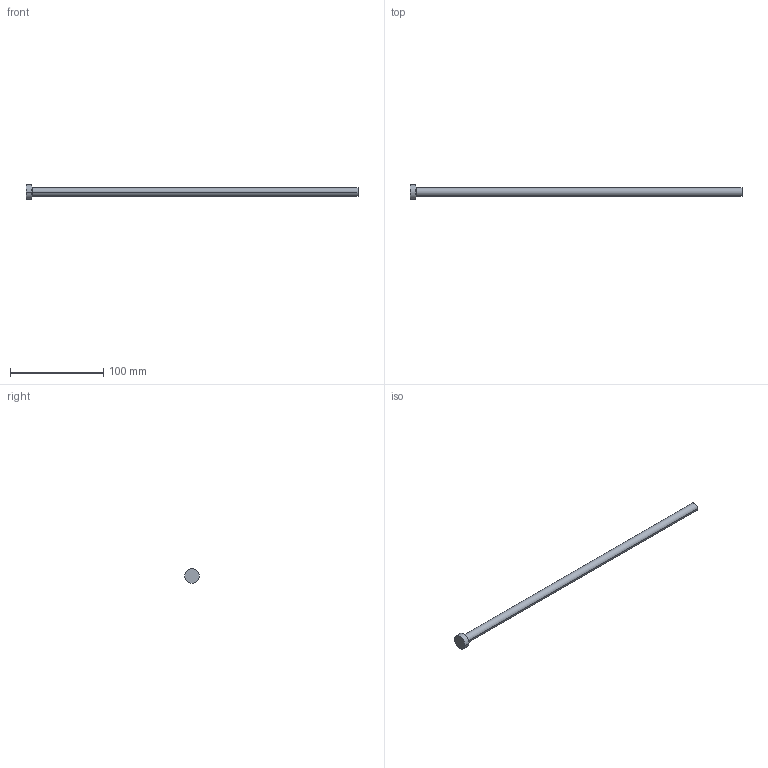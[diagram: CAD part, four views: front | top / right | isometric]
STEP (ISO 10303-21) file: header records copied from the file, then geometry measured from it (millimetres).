
FILE_DESCRIPTION (( 'STEP AP214' ), '1' );
FILE_NAME ('P24-14.STEP', '2020-03-12T09:51:10', ( '' ), ( '' ), 'SwSTEP 2.0', 'SolidWorks 2018', '' );
FILE_SCHEMA (( 'AUTOMOTIVE_DESIGN' ));
Length unit declared in the file: inch
Products named in the file (1): P24-14
Bounding box: 355.6 x 15.88 x 15.88 mm (x, y, z)
Volume: 24077.4 mm3; surface area: 10704.5 mm2
Topology: 1 solids, 1 shells, 13 faces, 24 edges, 14 vertices
Faces by surface type: cone 4, cylinder 4, plane 3, torus 2
Entity records: 366 total; most frequent: DIRECTION 68, CARTESIAN_POINT 52, ORIENTED_EDGE 48, AXIS2_PLACEMENT_3D 30, EDGE_CURVE 24, CIRCLE 16, VERTEX_POINT 14, EDGE_LOOP 14
